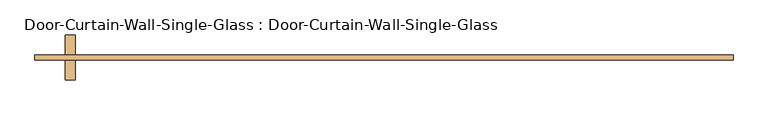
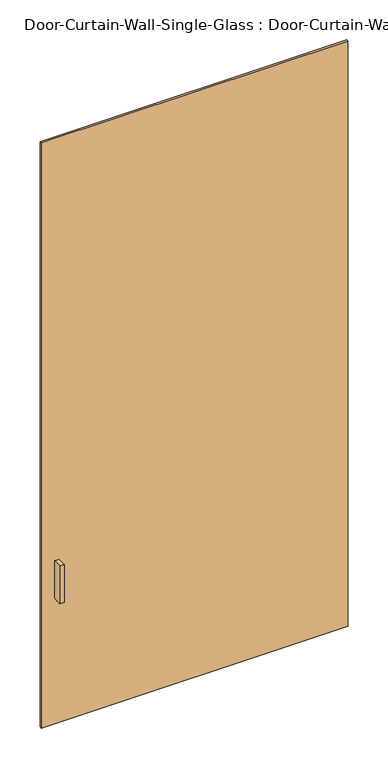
"""IFC4 building model written with IfcOpenShell, lengths in millimetres: door geometry, Door-Curtain-Wall-Single-Glass : Door-Curtain-Wall-Single-Glass."""

import ifcopenshell
import ifcopenshell.guid

model = None  # the IFC model being written
_history = None  # IfcOwnerHistory: only IFC2X3 demands one
_inside = {}  # id of a spatial element -> (the spatial element, [elements in it])
_under = {}  # id of a project, library or spatial element -> (it, [spatial elements below it])
_declared = {}  # id of a project -> (the project, [libraries it declares])
_typed = {}  # id of a type object -> (the type object, [elements of that type])
_made_of = {}  # id of a material, layer set ... -> (it, [elements and type objects made of it])


def new_model(schema):
    """Start an empty IFC model of exactly this schema.

    Asked for "IFC4X3", IfcOpenShell would pick the latest addendum, in which some entities
    have other attributes; the version numbers below select the first issue.
    IFC2X3 requires an IfcOwnerHistory on every rooted entity: one is made here for all.
    """
    global model, _history
    if schema == "IFC4X3":
        model = ifcopenshell.file(schema_version=(4, 3, 0, 0))
    else:
        model = ifcopenshell.file(schema=schema)
    _inside.clear()
    _under.clear()
    _declared.clear()
    _typed.clear()
    _made_of.clear()
    _history = None
    if model.schema == "IFC2X3":
        org = make("IfcOrganization", Name="unknown")
        user = make(
            "IfcPersonAndOrganization",
            ThePerson=make("IfcPerson", FamilyName="unknown"),
            TheOrganization=org,
        )
        app = make(
            "IfcApplication",
            ApplicationDeveloper=org,
            Version="unknown",
            ApplicationFullName="unknown",
            ApplicationIdentifier="unknown",
        )
        _history = make(
            "IfcOwnerHistory",
            OwningUser=user,
            OwningApplication=app,
            ChangeAction="ADDED",
            CreationDate=0,
        )
    return model


def make(cls, **values):
    """One entity of the class cls with the attributes given. An attribute that is None is left unset."""
    return model.create_entity(
        cls, **{name: value for name, value in values.items() if value is not None}
    )


def rooted(cls, **values):
    """An entity with a GlobalId (a new one), such as an element, a storey or a relation."""
    return make(cls, GlobalId=ifcopenshell.guid.new(), OwnerHistory=_history, **values)


def si_unit(unit_type, name, prefix=None):
    """IfcSIUnit, for example si_unit("LENGTHUNIT", "METRE", prefix="MILLI")."""
    return make("IfcSIUnit", UnitType=unit_type, Prefix=prefix, Name=name)


def assignment(units):
    """IfcUnitAssignment: the units of a project."""
    return None if units is None else make("IfcUnitAssignment", Units=units)


def point(xyz):
    """IfcCartesianPoint."""
    return None if xyz is None else make("IfcCartesianPoint", Coordinates=xyz)


def direction(xyz):
    """IfcDirection."""
    return None if xyz is None else make("IfcDirection", DirectionRatios=xyz)


def frame(location, z_axis=None, x_axis=None):
    """IfcAxis2Placement3D, a coordinate frame: its origin and axes. An axis left out is left unset."""
    return make(
        "IfcAxis2Placement3D",
        Location=point(location),
        Axis=direction(z_axis),
        RefDirection=direction(x_axis),
    )


def origin():
    """The frame at (0, 0, 0) with its axes left unset."""
    return frame((0.0, 0.0, 0.0))


def origin_with_axes():
    """The frame at (0, 0, 0) with the z axis (0, 0, 1) and the x axis (1, 0, 0) written out."""
    return frame((0.0, 0.0, 0.0), z_axis=(0.0, 0.0, 1.0), x_axis=(1.0, 0.0, 0.0))


def place(relative_to, where):
    """IfcLocalPlacement: puts the frame where relative to a parent placement (None: the world)."""
    return make(
        "IfcLocalPlacement", PlacementRelTo=relative_to, RelativePlacement=where
    )


def context(
    kind, dimensions, precision=None, world=None, true_north=None, identifier=None
):
    """IfcGeometricRepresentationContext, for example the 3D "Model" context."""
    return make(
        "IfcGeometricRepresentationContext",
        ContextIdentifier=identifier,
        ContextType=kind,
        CoordinateSpaceDimension=dimensions,
        Precision=precision,
        WorldCoordinateSystem=world,
        TrueNorth=true_north,
    )


def project(units=None, contexts=None):
    """IfcProject with its units and contexts."""
    return rooted(
        "IfcProject",
        Name="project",
        RepresentationContexts=contexts,
        UnitsInContext=assignment(units),
    )


def spatial(cls, under=None, at=None, **own):
    """A site, building, storey or space (cls), placed at a placement, below another one or the project."""
    s = rooted(cls, ObjectPlacement=at, **own)
    if under is not None:
        _under.setdefault(under.id(), (under, []))[1].append(s)
    return s


def polyline(points):
    """IfcPolyline through the points."""
    return make("IfcPolyline", Points=[point(p) for p in points])


def outline(outer, holes=None, kind="AREA"):
    """IfcArbitraryClosedProfileDef: a profile drawn as a closed curve; with holes, ...WithVoids."""
    if holes is None:
        return make("IfcArbitraryClosedProfileDef", ProfileType=kind, OuterCurve=outer)
    return make(
        "IfcArbitraryProfileDefWithVoids",
        ProfileType=kind,
        OuterCurve=outer,
        InnerCurves=holes,
    )


def extrude(swept, where, along, depth):
    """IfcExtrudedAreaSolid: the profile swept, set in the frame where, extruded along a direction by depth."""
    return make(
        "IfcExtrudedAreaSolid",
        SweptArea=swept,
        Position=where,
        ExtrudedDirection=direction(along),
        Depth=depth,
    )


def shape(context_of_items, identifier, shape_type, items):
    """IfcShapeRepresentation: the items that make up one representation, for example the "Body"."""
    return make(
        "IfcShapeRepresentation",
        ContextOfItems=context_of_items,
        RepresentationIdentifier=identifier,
        RepresentationType=shape_type,
        Items=items,
    )


def source(mapping_origin, context_of_items, identifier, shape_type, items):
    """IfcRepresentationMap: a shape defined once, which mapped items show again and again."""
    return make(
        "IfcRepresentationMap",
        MappingOrigin=mapping_origin,
        MappedRepresentation=shape(context_of_items, identifier, shape_type, items),
    )


def transform(
    local_origin,
    x_axis=None,
    y_axis=None,
    z_axis=None,
    scale=None,
    scale2=None,
    scale3=None,
    uniform=True,
):
    """IfcCartesianTransformationOperator3D, or its non-uniform kind. x_axis, y_axis, z_axis: its Axis1, 2, 3."""
    if uniform:
        return make(
            "IfcCartesianTransformationOperator3D",
            Axis1=direction(x_axis),
            Axis2=direction(y_axis),
            LocalOrigin=point(local_origin),
            Scale=scale,
            Axis3=direction(z_axis),
        )
    return make(
        "IfcCartesianTransformationOperator3DnonUniform",
        Axis1=direction(x_axis),
        Axis2=direction(y_axis),
        LocalOrigin=point(local_origin),
        Scale=scale,
        Axis3=direction(z_axis),
        Scale2=scale2,
        Scale3=scale3,
    )


def mapped(mapping_source, mapping_target):
    """IfcMappedItem: shows the shape of a source again, moved by a transform."""
    return make(
        "IfcMappedItem", MappingSource=mapping_source, MappingTarget=mapping_target
    )


def made_of(thing, what):
    """Note that an element or type object is made of a material, layer set ...; save() writes the relation."""
    if what is not None:
        _made_of.setdefault(what.id(), (what, []))[1].append(thing)
    return thing


def element(
    cls,
    number,
    at=None,
    inside=None,
    cuts=None,
    type_object=None,
    material=None,
    context=None,
    identifier="Body",
    shape_type=None,
    held_by="IfcProductDefinitionShape",
    body=None,
    shapes=None,
    **own,
):
    """One element of the class cls, such as IfcWall. Its Tag is "e" and its number.

    at: its placement. inside: the storey or other place that contains it. cuts: it is an
    opening in that element (IfcRelVoidsElement). A single representation is given by context,
    identifier, shape_type and body (its items); several are given by shapes. held_by: the class
    of the entity that holds the representations. save() writes the other relations.
    """
    e = rooted(cls, Tag="e%d" % number, ObjectPlacement=at, **own)
    if body is not None:
        shapes = [shape(context, identifier, shape_type, body)]
    if shapes is not None:
        e.Representation = make(held_by, Representations=shapes)
    if inside is not None:
        _inside.setdefault(inside.id(), (inside, []))[1].append(e)
    if cuts is not None:
        rooted(
            "IfcRelVoidsElement", RelatingBuildingElement=cuts, RelatedOpeningElement=e
        )
    if type_object is not None:
        _typed.setdefault(type_object.id(), (type_object, []))[1].append(e)
    return made_of(e, material)


def aggregate(whole, parts):
    """IfcRelAggregates: a whole, such as a stair, and the parts it consists of."""
    return rooted("IfcRelAggregates", RelatingObject=whole, RelatedObjects=parts)


def save(model, path):
    """Write the relations noted so far, then the file.

    IfcRelAggregates (storeys below a building ...), IfcRelContainedInSpatialStructure (elements
    in a storey), IfcRelDefinesByType, IfcRelAssociatesMaterial and IfcRelDeclares: one each for
    every whole, place, type object, material and project.
    """
    for whole, parts in _under.values():
        aggregate(whole, parts)
    for where, things in _inside.values():
        rooted(
            "IfcRelContainedInSpatialStructure",
            RelatedElements=things,
            RelatingStructure=where,
        )
    for kind, things in _typed.values():
        rooted("IfcRelDefinesByType", RelatedObjects=things, RelatingType=kind)
    for what, things in _made_of.values():
        rooted("IfcRelAssociatesMaterial", RelatedObjects=things, RelatingMaterial=what)
    for by, libraries in _declared.values():
        rooted("IfcRelDeclares", RelatingContext=by, RelatedDefinitions=libraries)
    model.write(path)


def door_curtain_wall_single_glass_door_curtain_wall_single_fb26e63e(model_context):
    return source(origin(), model_context, "Body", "SweptSolid", [
        extrude(outline(polyline([(882.65, 0.0), (882.65, -12.7), (-882.65, -12.7), (-882.65, 0.0), (882.65, 0.0)])), origin_with_axes(), (0.0, 0.0, 1.0), 3562.35),
        extrude(outline(polyline([(-781.05, -63.5), (-806.45, -63.5), (-806.45, -12.7), (-781.05, -12.7), (-781.05, -63.5)])), frame((0.0, 0.0, 762.0), z_axis=(0.0, 0.0, 1.0), x_axis=(1.0, 0.0, 0.0)), (0.0, 0.0, 1.0), 228.6),
        extrude(outline(polyline([(-806.45, 50.8), (-781.05, 50.8), (-781.05, 0.0), (-806.45, 0.0), (-806.45, 50.8)])), frame((0.0, 0.0, 762.0), z_axis=(0.0, 0.0, 1.0), x_axis=(1.0, 0.0, 0.0)), (0.0, 0.0, 1.0), 228.6),
    ])


if __name__ == "__main__":
    model = new_model("IFC4")
    model_context = context("Model", 3, world=origin())
    ifc_project = project(units=[si_unit("LENGTHUNIT", "METRE", prefix="MILLI")], contexts=[model_context])
    site = spatial("IfcSite", under=ifc_project)
    building = spatial("IfcBuilding", under=site)
    placement = place(None, origin())
    door_curtain_wall_single_glass_door_curtain_wall_single_shape = door_curtain_wall_single_glass_door_curtain_wall_single_fb26e63e(model_context)
    element("IfcDoor", 1, ObjectType="Door-Curtain-Wall-Single-Glass : Door-Curtain-Wall-Single-Glass", at=placement, inside=building, context=model_context, shape_type="MappedRepresentation", body=[
        mapped(door_curtain_wall_single_glass_door_curtain_wall_single_shape, transform((0.0, 0.0, 0.0), x_axis=(1.0, 0.0, 0.0), y_axis=(0.0, 1.0, 0.0), z_axis=(0.0, 0.0, 1.0))),
    ])
    save(model, "model.ifc")
